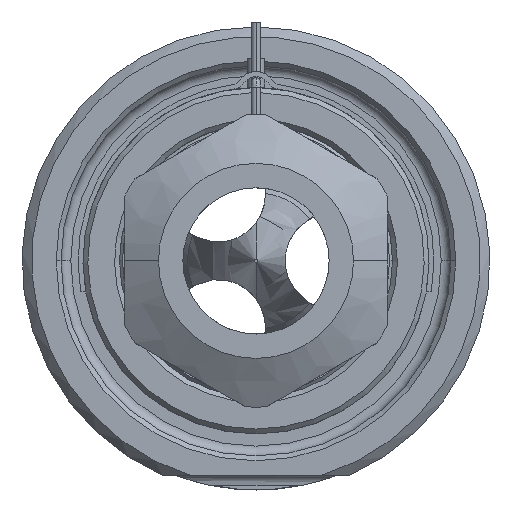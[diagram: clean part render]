
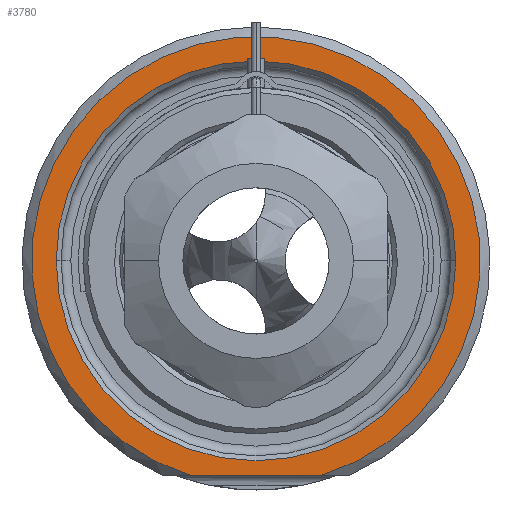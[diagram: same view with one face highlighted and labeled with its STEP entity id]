
A CAD part, front view. The second image highlights one B-rep face of the part: STEP entity #3780.
In plain terms, the highlighted planar face has unit normal (0, -1, 0).
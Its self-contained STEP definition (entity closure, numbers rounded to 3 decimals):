
#1=DIRECTION('',(1.,0.,0.));
#2=VECTOR('',#1,13.416);
#3=CARTESIAN_POINT('',(-6.708,0.,-22.));
#4=LINE('',#3,#2);
#5=CARTESIAN_POINT('',(0.,0.,0.));
#6=DIRECTION('',(0.,1.,0.));
#7=DIRECTION('',(-1.,0.,0.));
#8=AXIS2_PLACEMENT_3D('',#5,#6,#7);
#10=CARTESIAN_POINT('',(0.,0.,0.));
#11=DIRECTION('',(0.,1.,0.));
#12=DIRECTION('',(1.,0.,0.));
#13=AXIS2_PLACEMENT_3D('',#10,#11,#12);
#121=CARTESIAN_POINT('',(0.,0.,0.));
#122=DIRECTION('',(0.,-1.,0.));
#123=DIRECTION('',(0.292,0.,-0.957));
#124=AXIS2_PLACEMENT_3D('',#121,#122,#123);
#3163=CARTESIAN_POINT('',(-20.5,0.,0.));
#3164=CARTESIAN_POINT('',(20.5,0.,0.));
#3165=VERTEX_POINT('',#3163);
#3166=VERTEX_POINT('',#3164);
#3203=CARTESIAN_POINT('',(-6.708,0.,-22.));
#3204=CARTESIAN_POINT('',(6.708,0.,-22.));
#3205=VERTEX_POINT('',#3203);
#3206=VERTEX_POINT('',#3204);
#3763=CARTESIAN_POINT('',(0.,0.,0.));
#3764=DIRECTION('',(0.,-1.,0.));
#3765=DIRECTION('',(1.,0.,0.));
#3766=AXIS2_PLACEMENT_3D('',#3763,#3764,#3765);
#3767=PLANE('',#3766);
#3769=ORIENTED_EDGE('',*,*,#3768,.F.);
#3771=ORIENTED_EDGE('',*,*,#3770,.F.);
#3772=EDGE_LOOP('',(#3769,#3771));
#3773=FACE_OUTER_BOUND('',#3772,.F.);
#3775=ORIENTED_EDGE('',*,*,#3774,.F.);
#3777=ORIENTED_EDGE('',*,*,#3776,.F.);
#3778=EDGE_LOOP('',(#3775,#3777));
#3779=FACE_BOUND('',#3778,.F.);
#3780=ADVANCED_FACE('',(#3773,#3779),#3767,.T.);
#9=CIRCLE('',#8,20.5);
#14=CIRCLE('',#13,20.5);
#125=CIRCLE('',#124,23.);
#3768=EDGE_CURVE('',#3205,#3206,#4,.T.);
#3770=EDGE_CURVE('',#3206,#3205,#125,.T.);
#3774=EDGE_CURVE('',#3165,#3166,#9,.T.);
#3776=EDGE_CURVE('',#3166,#3165,#14,.T.);
